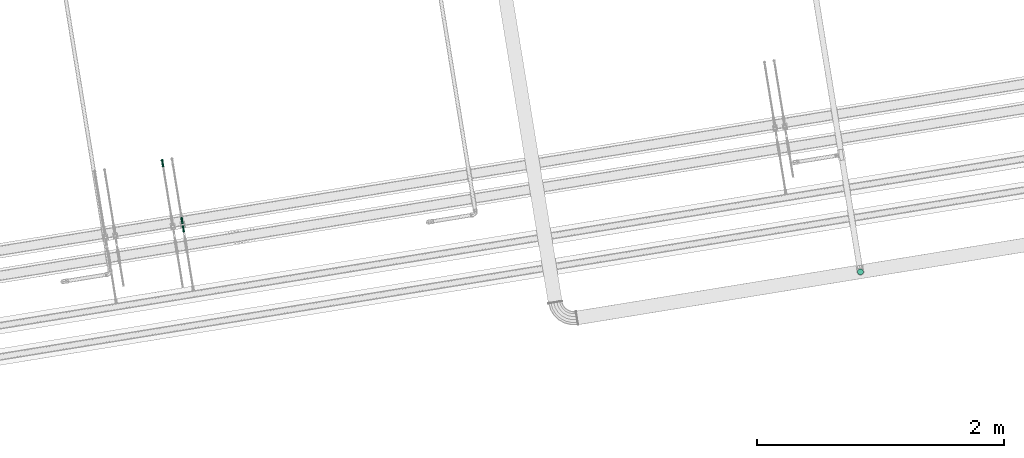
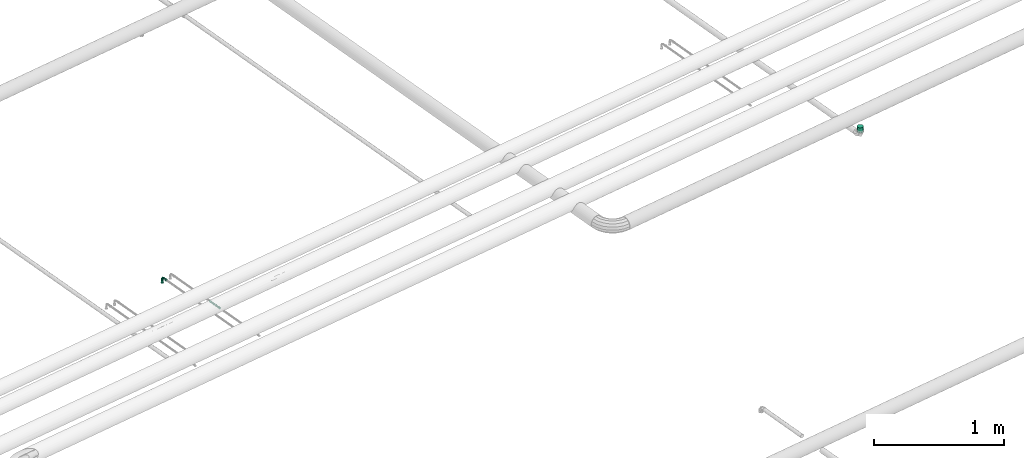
# One storey, part 48 of 56: 3 flow fittings, 1 flow segment.
"""IFC2X3 building model written with IfcOpenShell, lengths in millimetres."""

from ifc_helpers import new_model, entity, si_unit, converted_unit, derived_unit, direction, frame, origin, origin_with_axes, origin_2d_with_axis, place, context, subcontext, project, spatial, circle, extrude, faceted_brep, source, transform, mapped, material, material_list, type_object, element, save


model = new_model("IFC2X3")

# Units and contexts
model_context = context("Model", 3, precision=0.01, world=origin(), true_north=direction((6.12323399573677e-17, 1.0)))
plan_context = context("Plan", 3, precision=1e-05, world=origin_with_axes())
body_context = subcontext(model_context, "Body", "Model", "MODEL_VIEW")
ifc_project = project(units=[converted_unit("PLANEANGLEUNIT", "DEGREE", entity("IfcPositiveLengthMeasure", 0.0174532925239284), si_unit("PLANEANGLEUNIT", "RADIAN"), dimensions=[0, 0, 0, 0, 0, 0, 0]), si_unit("AREAUNIT", "SQUARE_METRE"), si_unit("LENGTHUNIT", "METRE", prefix="MILLI"), si_unit("MASSUNIT", "GRAM", prefix="KILO"), si_unit("POWERUNIT", "WATT"), si_unit("PRESSUREUNIT", "PASCAL", prefix="KILO"), si_unit("FORCEUNIT", "NEWTON", prefix="KILO"), si_unit("ELECTRICVOLTAGEUNIT", "VOLT"), si_unit("ELECTRICCURRENTUNIT", "AMPERE"), si_unit("THERMODYNAMICTEMPERATUREUNIT", "DEGREE_CELSIUS"), si_unit("TIMEUNIT", "SECOND"), si_unit("VOLUMEUNIT", "CUBIC_METRE"), derived_unit("LINEARVELOCITYUNIT", [(si_unit("LENGTHUNIT", "METRE"), 1), (si_unit("TIMEUNIT", "SECOND"), -1)]), derived_unit("VOLUMETRICFLOWRATEUNIT", [(si_unit("VOLUMEUNIT", "CUBIC_METRE"), 1), (si_unit("TIMEUNIT", "SECOND"), -1)]), derived_unit("THERMALTRANSMITTANCEUNIT", [(si_unit("POWERUNIT", "WATT"), 1), (si_unit("THERMODYNAMICTEMPERATUREUNIT", "KELVIN"), -1), (si_unit("AREAUNIT", "SQUARE_METRE"), -1)]), derived_unit("SOUNDPRESSUREUNIT", [(si_unit("PRESSUREUNIT", "PASCAL"), 1)])], contexts=[model_context, plan_context])

# Site, building, storey
site_placement = place(None, frame((-3.09682673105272e-06, 1.93776733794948e-05, 0.0), z_axis=(0.0, 0.0, 1.0), x_axis=(-0.160806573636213, 0.986985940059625, 0.0)))
site = spatial("IfcSite", under=ifc_project, at=site_placement, Name="Default", CompositionType="ELEMENT")
building_placement = place(site_placement, frame((0.0, 0.0, 0.0), z_axis=(0.0, 0.0, 1.0), x_axis=(1.0, -2.77555756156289e-17, 0.0)))
building = spatial("IfcBuilding", under=site, at=building_placement, Name="Bygning (endres i Project Information)", CompositionType="ELEMENT")
storey_placement = place(building_placement, frame((0.0, 0.0, 51360.0000000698), z_axis=(0.0, 0.0, 1.0), x_axis=(1.0, -2.77555756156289e-17, 0.0)))
storey = spatial("IfcBuildingStorey", under=building, at=storey_placement, Name="H01-Nivå D+0,36", CompositionType="ELEMENT", Elevation=51360.0000000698)

# Flow fittings
ifc_material_1 = material(Name="Geberit_Plastic_Red")
ifc_material_2 = material(Name="Geberit_Mapress_C-Steel")
ifc_material_list = material_list([ifc_material_1, ifc_material_2])
pipe_fitting_type_1 = type_object("IfcPipeFittingType", Name="PRO_103184:DN10-100 / d12-108 - OD", PredefinedType="BEND", material=ifc_material_list)
shared_shape_1 = source(origin(), body_context, "Body", "Brep", [
    faceted_brep([(-10.2000000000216, 47.0, 0.0), (-5.10000000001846, 53.0, -8.83345911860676), (-10.2000000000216, 53.0, 0.0), (-2.55000000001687, 47.0, -4.41672955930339), (5.09999999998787, 47.0, -8.83345911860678), (10.1999999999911, 47.0, 0.0), (10.1999999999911, 53.0, 0.0), (2.5499999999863, 53.0, -4.41672955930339), (5.09999999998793, 53.0, 8.83345911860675), (2.54999999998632, 47.0, 4.41672955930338), (-5.10000000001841, 47.0, 8.8334591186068), (-2.55000000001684, 53.0, 4.4167295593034), (-3.97333160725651, 51.6187415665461, -12.0896101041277), (-12.2979341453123, 50.9020658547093, 0.0), (6.17107195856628, 51.3356676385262, -11.312540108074), (5.11103080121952, 48.4277850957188, -11.6862297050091), (-5.17175491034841, 48.7468828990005, -11.8460073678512), (-11.7000000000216, 48.5, 0.0), (-13.2000000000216, 50.0, 0.0), (13.1999999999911, 50.0, 0.0), (11.6999999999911, 48.5, 0.0), (12.2979341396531, 50.9020658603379, 0.0), (3.97333159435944, 51.6187415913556, 12.0896100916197), (5.17175492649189, 48.7468829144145, 11.8460073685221), (-6.17107176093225, 51.3356676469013, 11.3125402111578), (-5.11103069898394, 48.4277850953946, 11.6862297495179)], [[[0, 1, 2]], [[1, 0, 3, 4]], [[5, 6, 4]], [[4, 6, 7, 1]], [[5, 8, 6]], [[8, 5, 9, 10]], [[0, 2, 10]], [[10, 2, 11, 8]], [[2, 12, 13]], [[12, 7, 14]], [[4, 15, 5]], [[16, 0, 17, 18]], [[15, 3, 16]], [[15, 14, 19]], [[19, 20, 5, 15]], [[12, 2, 1]], [[16, 18, 13]], [[15, 16, 12]], [[14, 6, 21, 19]], [[3, 0, 16]], [[15, 12, 14]], [[7, 6, 14]], [[3, 15, 4]], [[13, 12, 16]], [[7, 12, 1]], [[6, 22, 21]], [[9, 5, 23]], [[22, 11, 24]], [[23, 5, 20, 19]], [[25, 9, 23]], [[25, 24, 18]], [[18, 17, 0, 25]], [[25, 23, 22]], [[23, 19, 21]], [[25, 22, 24]], [[24, 2, 13, 18]], [[22, 6, 8]], [[10, 25, 0]], [[11, 2, 24]], [[9, 25, 10]], [[21, 22, 23]], [[11, 22, 8]]]),
    faceted_brep([(-9.0, 32.0, 0.0), (-4.5000000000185, 53.0, -7.79422863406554), (-9.0, 53.0, 0.0), (-2.25000000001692, 32.0, -3.89711431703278), (4.49999999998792, 32.0, -7.79422863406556), (9.0, 32.0, 0.0), (9.0, 53.0, 0.0), (4.499999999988, 53.0, 7.79422863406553), (2.24999999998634, 32.0, 3.89711431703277), (-4.50000000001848, 32.0, 7.79422863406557), (10.1999999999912, 53.0, 0.0), (-5.1000000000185, 53.0, -8.83345911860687), (5.09999999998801, 53.0, 8.83345911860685), (-10.2000000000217, 53.0, 0.0), (-5.10000000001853, 33.0, -8.83345911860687), (-10.2000000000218, 33.0, 0.0), (10.1999999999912, 33.0, 0.0), (2.54999999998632, 33.0, -4.41672955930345), (5.09999999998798, 33.0, 8.83345911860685), (-2.55000000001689, 33.0, 4.41672955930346)], [[[0, 1, 2]], [[1, 0, 3, 4]], [[5, 6, 4]], [[1, 4, 6]], [[5, 7, 6]], [[7, 5, 8, 9]], [[0, 2, 9]], [[7, 9, 2]], [[1, 6, 10]], [[11, 1, 10]], [[1, 11, 2]], [[6, 12, 10]], [[7, 12, 6]], [[2, 13, 7]], [[12, 7, 13]], [[13, 2, 11]], [[13, 11, 14, 15]], [[10, 16, 17, 14, 11]], [[10, 12, 18, 16]], [[13, 15, 19, 18, 12]], [[14, 3, 15]], [[3, 0, 15]], [[5, 4, 17]], [[3, 14, 4]], [[4, 14, 17]], [[16, 5, 17]], [[18, 8, 16]], [[8, 5, 16]], [[0, 9, 19]], [[8, 18, 9]], [[9, 18, 19]], [[15, 0, 19]]]),
    faceted_brep([(-47.0, -10.2000000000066, 0.0), (-53.0, -5.10000000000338, -8.83345911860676), (-53.0, -10.2000000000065, 0.0), (-47.0, -2.55000000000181, -4.41672955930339), (-47.0, 5.10000000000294, -8.83345911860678), (-47.0, 10.2000000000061, 0.0), (-53.0, 10.2000000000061, 0.0), (-53.0, 2.55000000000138, -4.41672955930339), (-53.0, 5.10000000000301, 8.83345911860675), (-47.0, 2.55000000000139, 4.41672955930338), (-47.0, -5.10000000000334, 8.8334591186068), (-53.0, -2.55000000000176, 4.4167295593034), (-51.6187415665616, -3.97333160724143, -12.0896101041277), (-50.9020658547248, -12.2979341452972, 0.0), (-51.3356676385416, 6.17107195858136, -11.312540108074), (-48.4277850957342, 5.11103080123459, -11.6862297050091), (-48.746882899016, -5.17175491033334, -11.8460073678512), (-48.5000000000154, -11.7000000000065, 0.0), (-50.0, -13.2000000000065, 0.0), (-50.0, 13.2000000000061, 0.0), (-48.5000000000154, 11.7000000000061, 0.0), (-50.9020658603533, 12.2979341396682, 0.0), (-51.618741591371, 3.97333159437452, 12.0896100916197), (-48.7468829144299, 5.17175492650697, 11.8460073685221), (-51.3356676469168, -6.17107176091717, 11.3125402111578), (-48.4277850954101, -5.11103069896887, 11.6862297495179)], [[[0, 1, 2]], [[1, 0, 3, 4]], [[5, 6, 4]], [[4, 6, 7, 1]], [[5, 8, 6]], [[8, 5, 9, 10]], [[0, 2, 10]], [[10, 2, 11, 8]], [[2, 12, 13]], [[12, 7, 14]], [[4, 15, 5]], [[16, 0, 17, 18]], [[15, 3, 16]], [[15, 14, 19]], [[19, 20, 5, 15]], [[12, 2, 1]], [[16, 18, 13]], [[15, 16, 12]], [[14, 6, 21, 19]], [[3, 0, 16]], [[15, 12, 14]], [[7, 6, 14]], [[3, 15, 4]], [[13, 12, 16]], [[7, 12, 1]], [[6, 22, 21]], [[9, 5, 23]], [[22, 11, 24]], [[23, 5, 20, 19]], [[25, 9, 23]], [[25, 24, 18]], [[18, 17, 0, 25]], [[25, 23, 22]], [[23, 19, 21]], [[25, 22, 24]], [[24, 2, 13, 18]], [[22, 6, 8]], [[10, 25, 0]], [[11, 2, 24]], [[9, 25, 10]], [[21, 22, 23]], [[11, 22, 8]]]),
    faceted_brep([(-32.0, -9.0, 0.0), (-53.0, -4.50000000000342, -7.79422863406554), (-53.0, -9.0, 0.0), (-32.0, -2.25000000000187, -3.89711431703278), (-32.0, 4.50000000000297, -7.79422863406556), (-32.0, 9.0, 0.0), (-53.0, 9.0, 0.0), (-53.0, 4.50000000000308, 7.79422863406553), (-32.0, 2.25000000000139, 3.89711431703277), (-32.0, -4.50000000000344, 7.79422863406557), (-53.0, 10.2000000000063, 0.0), (-53.0, -5.10000000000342, -8.83345911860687), (-53.0, 5.10000000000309, 8.83345911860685), (-53.0, -10.2000000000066, 0.0), (-33.0, -5.10000000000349, -8.83345911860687), (-33.0, -10.2000000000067, 0.0), (-33.0, 10.2000000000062, 0.0), (-33.0, 2.55000000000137, -4.41672955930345), (-33.0, 5.10000000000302, 8.83345911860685), (-33.0, -2.55000000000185, 4.41672955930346)], [[[0, 1, 2]], [[1, 0, 3, 4]], [[5, 6, 4]], [[1, 4, 6]], [[5, 7, 6]], [[7, 5, 8, 9]], [[0, 2, 9]], [[7, 9, 2]], [[1, 6, 10]], [[11, 1, 10]], [[1, 11, 2]], [[6, 12, 10]], [[7, 12, 6]], [[2, 13, 7]], [[12, 7, 13]], [[13, 2, 11]], [[13, 11, 14, 15]], [[10, 16, 17, 14, 11]], [[10, 12, 18, 16]], [[13, 15, 19, 18, 12]], [[14, 3, 15]], [[3, 0, 15]], [[5, 4, 17]], [[3, 14, 4]], [[4, 14, 17]], [[16, 5, 17]], [[18, 8, 16]], [[8, 5, 16]], [[0, 9, 19]], [[8, 18, 9]], [[9, 18, 19]], [[15, 0, 19]]]),
    faceted_brep([(-33.0, -9.0, 0.0), (-33.0, -7.79422863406, 4.49999999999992), (-33.0, -2.32937140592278, 8.69333243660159), (-33.0, 2.32937140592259, 8.69333243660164), (-33.0, 7.79422863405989, 4.50000000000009), (-33.0, 9.0, 0.0), (-33.0, 7.79422863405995, -4.5), (-33.0, 2.3293714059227, -8.69333243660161), (-33.0, -2.32937140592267, -8.69333243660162), (-33.0, -7.79422863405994, -4.50000000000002), (-14.0, -9.0, 0.0), (-14.0, -7.79422863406, 4.49999999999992), (-14.0, -2.32937140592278, 8.69333243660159), (-14.0, 2.32937140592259, 8.69333243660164), (2.32937140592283, 33.0, 8.69333243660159), (-2.32937140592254, 33.0, 8.69333243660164), (-2.32937140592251, 14.0, 8.69333243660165), (2.32937140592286, 14.0, 8.69333243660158), (-14.0, 7.79422863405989, 4.50000000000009), (-14.0, 9.0, 0.0), (-14.0, 7.79422863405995, -4.5), (-14.0, 2.3293714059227, -8.69333243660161), (-14.0, -2.32937140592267, -8.69333243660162), (-2.32937140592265, 33.0, -8.69333243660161), (2.32937140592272, 33.0, -8.69333243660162), (2.32937140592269, 14.0, -8.69333243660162), (-2.32937140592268, 14.0, -8.69333243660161), (-14.0, -7.79422863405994, -4.50000000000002), (-6.55705968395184, -4.70281640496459, 0.0), (-1.6301655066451, 1.63016464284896, 8.29426552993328), (-10.4644660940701, 10.4644660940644, 0.0), (-7.79422863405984, 14.0, 4.50000000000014), (5.91858428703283, 2.49999999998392, 0.0), (9.0, 14.0, 0.0), (7.79422863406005, 14.0, 4.49999999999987), (-9.0, 14.0, 0.0), (-1.63016501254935, 1.63016417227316, -8.29426524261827), (-7.79422863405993, 14.0, -4.49999999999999), (7.79422863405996, 14.0, -4.50000000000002), (-7.7942286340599, 33.0, -4.5), (-9.0, 33.0, 0.0), (-7.79422863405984, 33.0, 4.50000000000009), (7.79422863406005, 33.0, 4.49999999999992), (9.0, 33.0, 0.0), (7.79422863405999, 33.0, -4.50000000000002)], [[[0, 1, 2, 3, 4, 5, 6, 7, 8, 9]], [[0, 10, 11, 1]], [[1, 11, 12, 2]], [[12, 13, 3, 2]], [[14, 15, 16, 17]], [[3, 13, 18, 4]], [[4, 18, 19, 5]], [[5, 19, 20, 6]], [[6, 20, 21, 7]], [[21, 22, 8, 7]], [[23, 24, 25, 26]], [[8, 22, 27, 9]], [[9, 27, 10, 0]], [[12, 11, 28]], [[13, 12, 29]], [[11, 10, 28]], [[30, 18, 31]], [[30, 19, 18]], [[18, 13, 29]], [[32, 17, 29]], [[32, 29, 28]], [[32, 33, 34]], [[28, 29, 12]], [[32, 34, 17]], [[30, 31, 35]], [[29, 31, 18]], [[29, 16, 31]], [[16, 29, 17]], [[20, 19, 30]], [[25, 32, 36]], [[37, 36, 20]], [[22, 36, 28]], [[20, 36, 21]], [[27, 28, 10]], [[20, 30, 37]], [[26, 36, 37]], [[28, 36, 32]], [[22, 28, 27]], [[25, 36, 26]], [[32, 25, 38]], [[21, 36, 22]], [[38, 33, 32]], [[37, 30, 35]], [[23, 39, 40, 41, 15, 14, 42, 43, 44, 24]], [[33, 43, 42, 34]], [[34, 42, 14, 17]], [[16, 15, 41, 31]], [[31, 41, 40, 35]], [[35, 40, 39, 37]], [[37, 39, 23, 26]], [[25, 24, 44, 38]], [[38, 44, 43, 33]]]),
])
flow_fitting_placement = place(storey_placement, frame((1012399.73542383, -386894.422534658, 3299.99999997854), z_axis=(-2.77555756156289e-17, -1.0, 0.0), x_axis=(0.0, 0.0, 1.0)))
element("IfcFlowFitting", 1, at=flow_fitting_placement, inside=storey, type_object=pipe_fitting_type_1, material=ifc_material_list, Name="PRO_103184:DN10-100 / d12-108 - OD", ObjectType="PRO_103184:DN10-100 / d12-108 - OD", context=body_context, shape_type="MappedRepresentation", body=[
    mapped(shared_shape_1, transform((0.0, 0.0, 0.0), scale=1.0)),
])
pipe_fitting_type_2 = type_object("IfcPipeFittingType", Name="PRO_103183:DN10-100 / d12-108 - OD", PredefinedType="TRANSITION", material=ifc_material_list)
shared_shape_2 = source(origin(), body_context, "Body", "Brep", [
    faceted_brep([(-14.0, -8.70000000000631, 0.0), (-14.0, -4.35000000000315, -7.53442101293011), (-20.0, -4.35000000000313, -7.53442101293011), (-20.0, -8.7000000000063, 0.0), (-14.0, 4.3500000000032, -7.53442101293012), (-20.0, 4.35000000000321, -7.53442101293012), (-14.0, 8.70000000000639, 0.0), (-20.0, 8.7000000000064, 0.0), (-14.0, 4.35000000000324, 7.5344210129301), (-20.0, 4.35000000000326, 7.5344210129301), (-14.0, -4.3500000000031, 7.53442101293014), (-20.0, -4.35000000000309, 7.53442101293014), (-16.4241214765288, -8.2588311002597, -8.20848959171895), (-17.0, -11.7000000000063, 0.0), (-18.5000000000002, -10.2000000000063, 0.0), (-15.5000000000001, 10.2000000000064, 0.0), (-15.5000000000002, -10.2000000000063, 0.0), (-16.9999999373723, -2.76994209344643e-07, -11.7000000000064), (-18.5000000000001, 10.2000000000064, 0.0), (-17.575878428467, 8.25883091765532, -8.20848980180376), (-17.0, 11.7000000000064, 0.0), (-16.424121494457, 8.25883104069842, 8.20848965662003), (-17.5758784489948, -8.25883086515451, 8.20848984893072), (-16.9999999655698, 1.58419149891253e-07, 11.7000000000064)], [[[0, 1, 2, 3]], [[1, 4, 5, 2]], [[4, 6, 7, 5]], [[6, 8, 9, 7]], [[8, 10, 11, 9]], [[10, 0, 3, 11]], [[12, 13, 14]], [[15, 6, 4]], [[16, 13, 12]], [[17, 14, 2]], [[18, 19, 5]], [[5, 19, 17]], [[14, 17, 12]], [[2, 5, 17]], [[20, 19, 18]], [[0, 16, 1]], [[19, 20, 15]], [[15, 4, 17]], [[16, 12, 1]], [[18, 5, 7]], [[14, 3, 2]], [[15, 17, 19]], [[1, 12, 17]], [[4, 1, 17]], [[21, 20, 18]], [[11, 22, 23]], [[15, 20, 21]], [[23, 18, 9]], [[23, 21, 18]], [[15, 21, 8]], [[22, 16, 23]], [[10, 8, 23]], [[13, 22, 14]], [[14, 22, 11]], [[22, 13, 16]], [[16, 10, 23]], [[8, 21, 23]], [[6, 15, 8]], [[9, 11, 23]], [[14, 11, 3]], [[16, 0, 10]], [[18, 7, 9]]]),
    faceted_brep([(1.0, -7.50000000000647, 0.0), (1.0, -3.75000000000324, -6.49519052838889), (-20.0, -3.75000000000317, -6.49519052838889), (-20.0, -7.5000000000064, 0.0), (1.0, 3.75000000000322, -6.4951905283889), (-20.0, 3.75000000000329, -6.4951905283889), (1.0, 7.50000000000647, 0.0), (-20.0, 7.50000000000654, 0.0), (1.0, 3.75000000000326, 6.49519052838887), (-20.0, 3.75000000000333, 6.49519052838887), (1.0, -3.7500000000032, 6.49519052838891), (-20.0, -3.75000000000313, 6.49519052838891), (-20.0, 4.35000000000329, -7.53442101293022), (-20.0, 8.70000000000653, 0.0), (-20.0, -4.35000000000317, -7.53442101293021), (-20.0, -8.7000000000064, 0.0), (-20.0, -4.35000000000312, 7.53442101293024), (-20.0, 4.35000000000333, 7.5344210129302), (0.0, -4.35000000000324, -7.53442101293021), (0.0, -8.70000000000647, 0.0), (0.0, 4.35000000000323, -7.53442101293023), (0.0, 8.70000000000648, 0.0), (0.0, 4.35000000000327, 7.5344210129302), (0.0, -4.35000000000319, 7.53442101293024)], [[[0, 1, 2, 3]], [[1, 4, 5, 2]], [[4, 6, 7, 5]], [[6, 8, 9, 7]], [[8, 10, 11, 9]], [[10, 0, 3, 11]], [[12, 7, 13]], [[7, 12, 5]], [[2, 5, 12]], [[12, 14, 2]], [[3, 2, 14]], [[14, 15, 3]], [[16, 3, 15]], [[3, 16, 11]], [[17, 11, 16]], [[7, 9, 17]], [[11, 17, 9]], [[17, 13, 7]], [[15, 14, 18, 19]], [[14, 12, 20, 18]], [[12, 13, 21, 20]], [[13, 17, 22, 21]], [[17, 16, 23, 22]], [[16, 15, 19, 23]], [[19, 18, 1, 0]], [[18, 20, 4, 1]], [[20, 21, 6, 4]], [[21, 22, 8, 6]], [[22, 23, 10, 8]], [[23, 19, 0, 10]]]),
    faceted_brep([(35.0, 4.49999999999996, -7.79422863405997), (35.0, 6.36396103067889, -6.36396103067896), (35.0, 7.79422863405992, -4.50000000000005), (35.0, 8.6933324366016, -2.32937140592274), (35.0, 9.0, 0.0), (35.0, 8.69333243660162, 2.32937140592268), (35.0, 7.79422863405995, 4.5), (35.0, 6.36396103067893, 6.36396103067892), (35.0, 4.50000000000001, 7.79422863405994), (35.0, 2.3293714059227, 8.69333243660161), (35.0, 0.0, 9.0), (35.0, -2.32937140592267, 8.69333243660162), (35.0, -4.49999999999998, 7.79422863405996), (35.0, -6.36396103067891, 6.36396103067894), (35.0, -7.79422863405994, 4.50000000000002), (35.0, -8.69333243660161, 2.32937140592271), (35.0, -9.0, 0.0), (35.0, -8.69333243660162, -2.32937140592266), (35.0, -7.79422863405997, -4.49999999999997), (35.0, -6.36396103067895, -6.3639610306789), (35.0, -4.50000000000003, -7.79422863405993), (35.0, -2.32937140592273, -8.6933324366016), (35.0, 0.0, -9.0), (35.0, 2.32937140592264, -8.69333243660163), (11.7058823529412, 0.0, 9.0), (11.7058823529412, 2.3293714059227, 8.69333243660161), (11.7058823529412, 4.50000000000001, 7.79422863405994), (11.7058823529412, 6.36396103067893, 6.36396103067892), (11.7058823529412, 7.79422863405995, 4.5), (11.7058823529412, 8.69333243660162, 2.32937140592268), (11.7058823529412, 9.0, 0.0), (11.7058823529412, 8.6933324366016, -2.32937140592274), (11.7058823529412, 7.79422863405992, -4.50000000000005), (11.7058823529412, 6.36396103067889, -6.36396103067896), (11.7058823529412, 4.49999999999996, -7.79422863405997), (11.7058823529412, 2.32937140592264, -8.69333243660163), (11.7058823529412, 0.0, -9.0), (11.7058823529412, -2.32937140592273, -8.6933324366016), (11.7058823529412, -4.50000000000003, -7.79422863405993), (11.7058823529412, -6.36396103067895, -6.3639610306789), (11.7058823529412, -7.79422863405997, -4.49999999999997), (11.7058823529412, -8.69333243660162, -2.32937140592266), (11.7058823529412, -9.0, 0.0), (11.7058823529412, -8.69333243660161, 2.32937140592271), (11.7058823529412, -7.79422863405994, 4.50000000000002), (11.7058823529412, -6.36396103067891, 6.36396103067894), (11.7058823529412, -4.49999999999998, 7.79422863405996), (11.7058823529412, -2.32937140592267, 8.69333243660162)], [[[0, 1, 2, 3, 4, 5, 6, 7, 8, 9, 10, 11, 12, 13, 14, 15, 16, 17, 18, 19, 20, 21, 22, 23]], [[24, 25, 26, 27, 28, 29, 30, 31, 32, 33, 34, 35, 36, 37, 38, 39, 40, 41, 42, 43, 44, 45, 46, 47]], [[41, 17, 16, 42]], [[40, 18, 17, 41]], [[20, 19, 39, 38]], [[40, 39, 19, 18]], [[21, 20, 38, 37]], [[22, 21, 37, 36]], [[35, 23, 22, 36]], [[34, 0, 23, 35]], [[2, 1, 33, 32]], [[34, 33, 1, 0]], [[3, 2, 32, 31]], [[4, 3, 31, 30]], [[29, 5, 4, 30]], [[28, 6, 5, 29]], [[8, 7, 27, 26]], [[28, 27, 7, 6]], [[9, 8, 26, 25]], [[10, 9, 25, 24]], [[47, 11, 10, 24]], [[46, 12, 11, 47]], [[14, 13, 45, 44]], [[46, 45, 13, 12]], [[15, 14, 44, 43]], [[16, 15, 43, 42]]]),
    faceted_brep([(11.7058823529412, 9.0, 0.0), (11.7058823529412, 4.50000000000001, 7.79422863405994), (11.7058823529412, -4.49999999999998, 7.79422863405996), (11.7058823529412, -9.0, 0.0), (11.7058823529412, -4.50000000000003, -7.79422863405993), (11.7058823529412, 4.49999999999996, -7.79422863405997), (9.70588235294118, 3.75000000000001, 6.49519052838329), (9.70588235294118, 7.5, 0.0), (9.70588235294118, 3.74999999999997, -6.49519052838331), (9.70588235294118, -3.75000000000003, -6.49519052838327), (9.70588235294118, -7.5, 0.0), (9.70588235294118, -3.74999999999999, 6.4951905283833)], [[[0, 1, 2, 3, 4, 5]], [[6, 7, 8, 9, 10, 11]], [[10, 9, 4, 3]], [[9, 8, 5, 4]], [[8, 7, 0, 5]], [[7, 6, 1, 0]], [[6, 11, 2, 1]], [[11, 10, 3, 2]]]),
    faceted_brep([(9.70588235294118, 3.74999999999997, -6.49519052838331), (9.70588235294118, 5.30330085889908, -5.30330085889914), (9.70588235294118, 6.49519052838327, -3.75000000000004), (9.70588235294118, 7.244443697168, -1.94114283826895), (9.70588235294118, 7.5, 0.0), (9.70588235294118, 7.24444369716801, 1.9411428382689), (9.70588235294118, 6.49519052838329, 3.75), (9.70588235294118, 5.30330085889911, 5.3033008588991), (9.70588235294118, 3.75000000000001, 6.49519052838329), (9.70588235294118, 1.94114283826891, 7.24444369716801), (9.70588235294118, 0.0, 7.5), (9.70588235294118, -1.94114283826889, 7.24444369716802), (9.70588235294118, -3.74999999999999, 6.4951905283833), (9.70588235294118, -5.3033008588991, 5.30330085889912), (9.70588235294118, -6.49519052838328, 3.75000000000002), (9.70588235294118, -7.24444369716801, 1.94114283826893), (9.70588235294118, -7.5, 0.0), (9.70588235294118, -7.24444369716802, -1.94114283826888), (9.70588235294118, -6.4951905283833, -3.74999999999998), (9.70588235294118, -5.30330085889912, -5.30330085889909), (9.70588235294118, -3.75000000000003, -6.49519052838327), (9.70588235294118, -1.94114283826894, -7.244443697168), (9.70588235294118, 0.0, -7.5), (9.70588235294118, 1.94114283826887, -7.24444369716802), (0.0, 5.30330085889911, 5.3033008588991), (0.0, 6.49519052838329, 3.75), (0.0, 7.24444369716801, 1.9411428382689), (0.0, 7.5, 0.0), (0.0, 7.244443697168, -1.94114283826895), (0.0, 6.49519052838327, -3.75000000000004), (0.0, 5.30330085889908, -5.30330085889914), (0.0, 3.74999999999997, -6.49519052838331), (0.0, 1.94114283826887, -7.24444369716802), (0.0, 0.0, -7.5), (0.0, -1.94114283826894, -7.244443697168), (0.0, -3.75000000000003, -6.49519052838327), (0.0, -5.30330085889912, -5.30330085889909), (0.0, -6.4951905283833, -3.74999999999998), (0.0, -7.24444369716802, -1.94114283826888), (0.0, -7.5, 0.0), (0.0, -7.24444369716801, 1.94114283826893), (0.0, -6.49519052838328, 3.75000000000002), (0.0, -5.3033008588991, 5.30330085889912), (0.0, -3.74999999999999, 6.4951905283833), (0.0, -1.94114283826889, 7.24444369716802), (0.0, 0.0, 7.5), (0.0, 1.94114283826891, 7.24444369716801), (0.0, 3.75000000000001, 6.49519052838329)], [[[0, 1, 2, 3, 4, 5, 6, 7, 8, 9, 10, 11, 12, 13, 14, 15, 16, 17, 18, 19, 20, 21, 22, 23]], [[24, 25, 26, 27, 28, 29, 30, 31, 32, 33, 34, 35, 36, 37, 38, 39, 40, 41, 42, 43, 44, 45, 46, 47]], [[38, 17, 16, 39]], [[37, 18, 17, 38]], [[20, 19, 36, 35]], [[37, 36, 19, 18]], [[21, 20, 35, 34]], [[22, 21, 34, 33]], [[32, 23, 22, 33]], [[31, 0, 23, 32]], [[2, 1, 30, 29]], [[31, 30, 1, 0]], [[3, 2, 29, 28]], [[4, 3, 28, 27]], [[26, 5, 4, 27]], [[25, 6, 5, 26]], [[8, 7, 24, 47]], [[25, 24, 7, 6]], [[9, 8, 47, 46]], [[10, 9, 46, 45]], [[44, 11, 10, 45]], [[43, 12, 11, 44]], [[14, 13, 42, 41]], [[43, 42, 13, 12]], [[15, 14, 41, 40]], [[16, 15, 40, 39]]]),
])
for number, where, z_axis, x_axis in (
    (2, (1011831.42012948, -386975.112691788, 3299.99999997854), (0.0, 0.0, 1.0), (-1.0, 2.77555756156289e-17, 0.0)),
    (3, (1011885.42012948, -386975.112691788, 3299.99999997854), (0.0, 0.0, 1.0), (1.0, -2.77555756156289e-17, 0.0)),
):
    element("IfcFlowFitting", number, at=place(storey_placement, frame(where, z_axis=z_axis, x_axis=x_axis)), inside=storey, type_object=pipe_fitting_type_2, material=ifc_material_list, Name="PRO_103183:DN10-100 / d12-108 - OD", ObjectType="PRO_103183:DN10-100 / d12-108 - OD", context=body_context, shape_type="MappedRepresentation", body=[
        mapped(shared_shape_2, transform((0.0, 0.0, 0.0), scale=1.0)),
    ])

# Flow segment
ifc_material_3 = material(Name="3320.001")
pipe_segment_type = type_object("IfcPipeSegmentType", Name="Pipe Types:Stålrør sveist og gjenget", PredefinedType="NOTDEFINED", material=ifc_material_3)
flow_segment_placement = place(storey_placement, frame((0.0, 0.0, 0.0), z_axis=(0.0, 0.0, 1.0), x_axis=(1.0, -2.77555756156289e-17, 0.0)))
element("IfcFlowSegment", 4, at=flow_segment_placement, inside=storey, type_object=pipe_segment_type, Name="Pipe Types:Stålrør sveist og gjenget", ObjectType="Pipe Types:Stålrør sveist og gjenget", context=body_context, shape_type="SweptSolid", body=[
    extrude(circle(Radius=24.1499996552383, at=origin_2d_with_axis()), frame((1010597.87927671, -392336.905112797, 3230.59999999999), z_axis=(0.0, 0.0, 1.0), x_axis=(-1.0, 0.0, 0.0)), (0.0, 0.0, 1.0), 49.4000000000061),
])

save(model, "model.ifc")
